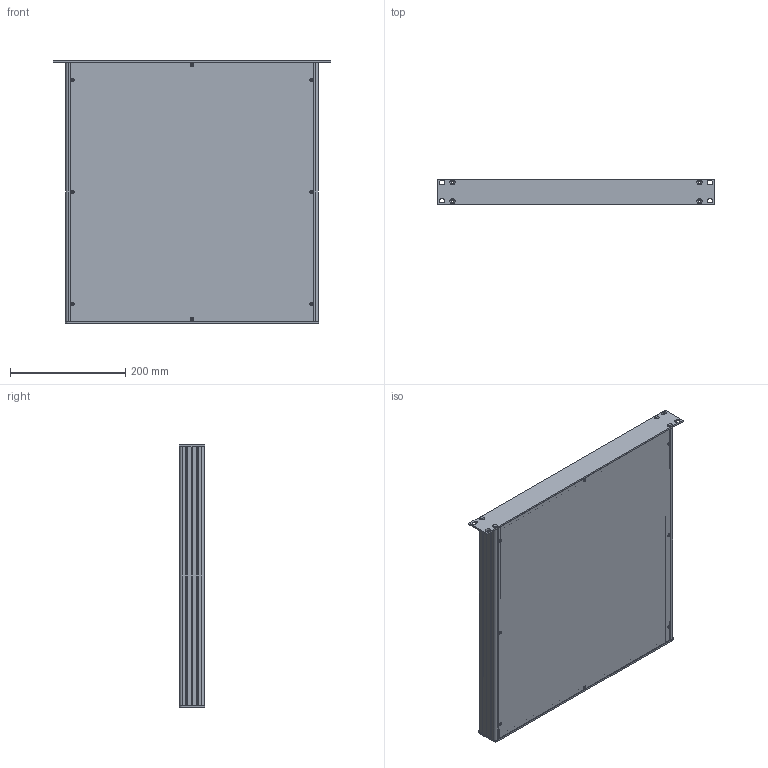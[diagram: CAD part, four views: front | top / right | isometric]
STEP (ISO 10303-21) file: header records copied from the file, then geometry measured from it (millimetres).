
FILE_DESCRIPTION (( 'STEP AP203' ), '1' );
FILE_NAME ('RM-110-45.STEP', '2025-01-27T06:49:17', ( '' ), ( '' ), 'SwSTEP 2.0', 'SolidWorks 2021', '' );
FILE_SCHEMA (( 'CONFIG_CONTROL_DESIGN' ));
Length unit declared in the file: millimetre
Products named in the file (6): RM-110-45; 1U_arka_panel; AP-210_14 cm; Panel_1; Panel_14 cm; 1U_on_panel
Assembly tree (6 placements, depth 2):
  RM-110-45
    1U_on_panel
    AP-210_14 cm  x2
    1U_arka_panel
    Panel_14 cm
    Panel_1
Bounding box: 482.6 x 43.65 x 456 mm (x, y, z)
Volume: 930183 mm3; surface area: 1134768.7 mm2
Topology: 6 solids, 6 shells, 1158 faces, 3406 edges, 2260 vertices
Faces by surface type: plane 706, cylinder 404, cone 48
Entity records: 30289 total; most frequent: CARTESIAN_POINT 5185, ORIENTED_EDGE 5126, DIRECTION 5115, EDGE_CURVE 2563, VECTOR 1763, LINE 1763, VERTEX_POINT 1698, AXIS2_PLACEMENT_3D 1676
